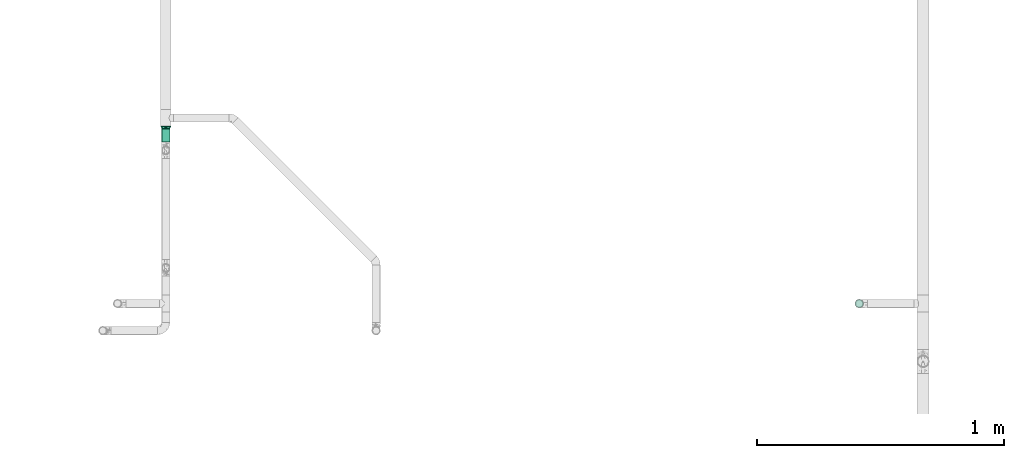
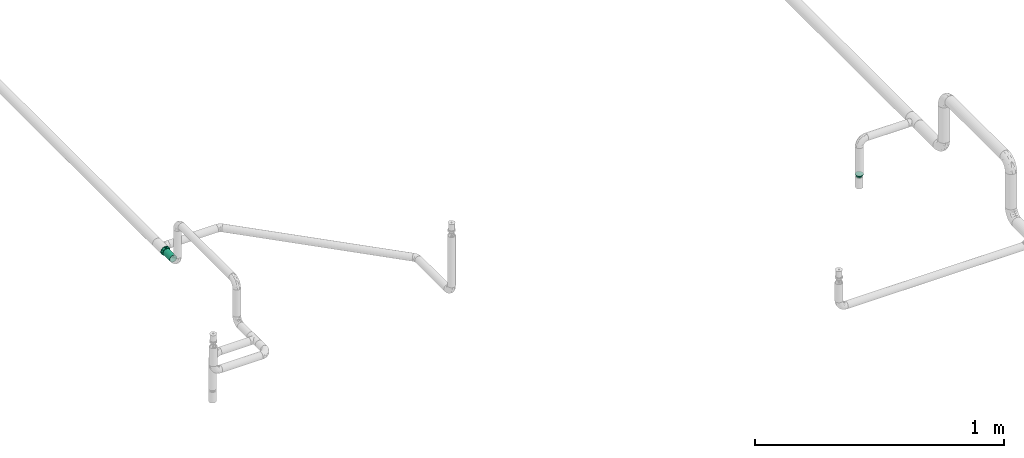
# One storey, part 42 of 157: 2 flow fittings, 1 flow segment.
"""IFC2X3 building model written with IfcOpenShell, lengths in millimetres."""

from ifc_helpers import new_model, entity, si_unit, converted_unit, derived_unit, direction, frame, origin_with_axes, origin_2d_with_axis, place, context, subcontext, project, spatial, hollow_circle, extrude, open_shell, surface_model, source, transform, mapped, type_object, element, save


model = new_model("IFC2X3")

# Units and contexts
model_context = context("Model", 3, precision=0.01, world=frame((0.0, 4.29681676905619e-09, 0.0)), true_north=direction((4.01073788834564e-13, 1.0)))
plan_context = context("Plan", 3, precision=0.01, world=frame((0.0, 4.29681676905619e-09, 0.0)), true_north=direction((4.01073788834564e-13, 1.0)))
body_context = subcontext(model_context, "Body", "Model", "MODEL_VIEW")
ifc_project = project(units=[converted_unit("PLANEANGLEUNIT", "DEGREE", entity("IfcPositiveLengthMeasure", 0.0174532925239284), si_unit("PLANEANGLEUNIT", "RADIAN"), dimensions=[0, 0, 0, 0, 0, 0, 0]), si_unit("AREAUNIT", "SQUARE_METRE"), si_unit("LENGTHUNIT", "METRE", prefix="MILLI"), si_unit("MASSUNIT", "GRAM", prefix="KILO"), si_unit("POWERUNIT", "WATT"), si_unit("PRESSUREUNIT", "PASCAL"), si_unit("FORCEUNIT", "NEWTON", prefix="KILO"), si_unit("ELECTRICCURRENTUNIT", "AMPERE"), si_unit("THERMODYNAMICTEMPERATUREUNIT", "DEGREE_CELSIUS"), si_unit("TIMEUNIT", "SECOND"), si_unit("VOLUMEUNIT", "CUBIC_METRE"), derived_unit("LINEARVELOCITYUNIT", [(si_unit("LENGTHUNIT", "METRE"), 1), (si_unit("TIMEUNIT", "SECOND"), -1)]), derived_unit("VOLUMETRICFLOWRATEUNIT", [(si_unit("VOLUMEUNIT", "CUBIC_METRE"), 1), (si_unit("TIMEUNIT", "SECOND"), -1)]), derived_unit("THERMALTRANSMITTANCEUNIT", [(si_unit("POWERUNIT", "WATT"), 1), (si_unit("THERMODYNAMICTEMPERATUREUNIT", "KELVIN"), -1), (si_unit("AREAUNIT", "SQUARE_METRE"), -1)])], contexts=[model_context, plan_context])

# Site, building, storey
site_placement = place(None, frame((0.0, -4.29681676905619e-09, 0.0), z_axis=(0.0, 0.0, 1.0), x_axis=(1.0, 0.0, 0.0)))
site = spatial("IfcSite", under=ifc_project, at=site_placement, CompositionType="ELEMENT")
building_placement = place(site_placement, frame((0.0, 4.29681676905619e-09, 0.0), z_axis=(0.0, 0.0, 1.0), x_axis=(1.0, 0.0, 0.0)))
building = spatial("IfcBuilding", under=site, at=building_placement, Name="mc-building", CompositionType="ELEMENT")
storey_placement = place(building_placement, frame((0.0, 0.0, 204000.0), z_axis=(0.0, 0.0, 1.0), x_axis=(1.0, 0.0, 0.0)))
storey = spatial("IfcBuildingStorey", under=building, at=storey_placement, Name="Nivå D", CompositionType="ELEMENT", Elevation=204000.0)

# Flow fittings
pipe_fitting_type = type_object("IfcPipeFittingType", Name="magi_pipe_fe_reducer_centric_short_NOR", PredefinedType="TRANSITION")
shared_shape_1 = source(origin_with_axes(), body_context, "Body", "SurfaceModel", [
    surface_model("IfcShellBasedSurfaceModel", [(-2.0, -10.6, -18.35974), (-2.0, 0.0, -21.2), (-2.0, -5.48696, -20.47763), (-2.0, 5.48696, -20.47763), (-2.0, 10.6, -18.35974), (8.6, -11.9501, -11.9501), (8.6, -11.9501, 11.9501), (8.6, -16.9, 0.0), (8.6, 11.9501, -11.9501), (8.6, 16.9, 0.0), (8.6, 0.0, -16.9), (0.0, 17.15116, 12.46105), (0.0, 6.55116, -20.1624), (0.0, -21.2, 0.0), (0.0, -6.55116, -20.1624), (0.0, -17.15116, -12.46105), (8.6, 2.98753, -15.66253), (0.0, 0.0, -20.1624), (0.0, -11.85116, -16.31172), (8.6, -2.98753, -15.66253), (8.6, 8.96258, -13.18758), (8.6, 5.97505, -14.42505), (0.0, 11.85116, -16.31172), (8.6, -5.97505, -14.42505), (8.6, -13.18758, -8.96258), (8.6, -8.96258, -13.18758), (0.0, -6.55116, 20.1624), (8.6, -2.98753, 15.66253), (0.0, 0.0, 20.1624), (8.6, 11.9501, 11.9501), (0.0, 11.85116, 16.31172), (8.6, 2.98753, 15.66253), (0.0, 6.55116, 20.1624), (8.6, -8.96258, 13.18758), (8.6, -5.97505, 14.42505), (0.0, -11.85116, 16.31172), (8.6, 5.97505, 14.42505), (8.6, 13.18758, 8.96258), (8.6, 8.96258, 13.18758), (10.6, 4.37404, -16.32415), (10.6, 8.45, -14.63583), (10.6, 11.9501, -11.9501), (10.6, -8.45, -14.63583), (10.6, 16.32415, -4.37404), (10.6, 16.32415, 4.37404), (10.6, 14.63583, -8.45), (10.6, 0.0, -16.9), (10.6, -4.37404, -16.32415), (10.6, -11.9501, -11.9501), (10.6, -16.32415, -4.37404), (10.6, -14.63583, -8.45), (10.6, -16.32415, 4.37404), (10.6, 16.9, 0.0), (10.6, 14.63583, 8.45), (10.6, 11.9501, 11.9501), (10.6, 4.37404, 16.32415), (10.6, 8.45, 14.63583), (10.6, 0.0, 16.9), (10.6, -14.63583, 8.45), (10.6, -16.9, 0.0), (10.6, -8.45, 14.63583), (10.6, -11.9501, 11.9501), (10.6, -4.37404, 16.32415), (8.6, 4.37404, 16.32415), (8.6, -14.63583, 8.45), (8.6, 0.0, 16.9), (8.6, 16.32415, 4.37404), (8.6, 8.45, 14.63583), (8.6, 14.63583, 8.45), (8.6, -8.45, 14.63583), (8.6, -4.37404, 16.32415), (8.6, -16.32415, 4.37404), (8.6, -16.32415, -4.37404), (8.6, -8.45, -14.63583), (8.6, 16.32415, -4.37404), (8.6, 14.63583, -8.45), (8.6, 8.45, -14.63583), (8.6, 4.37404, -16.32415), (8.6, -14.63583, -8.45), (8.6, -4.37404, -16.32415), (-2.0, 0.0, 21.2), (-2.0, 5.48696, 20.47763), (-2.0, 10.6, 18.35974), (-2.0, 14.99066, 14.99066), (-2.0, 18.35974, 10.6), (-2.0, 20.47763, 5.48696), (-2.0, -21.2, 0.0), (-2.0, -14.99066, -14.99066), (-2.0, -5.48696, 20.47763), (-2.0, -14.99066, 14.99066), (-2.0, -10.6, 18.35974), (-2.0, -18.35974, 10.6), (-2.0, -20.47763, 5.48696), (-2.0, 20.47763, -5.48696), (-2.0, 14.99066, -14.99066), (-2.0, 18.35974, -10.6), (-2.0, -18.35974, -10.6), (-2.0, -20.47763, -5.48696), (-2.0, 21.2, 0.0), (0.0, 10.6, -18.35974), (0.0, 0.0, -21.2), (0.0, 5.48696, -20.47763), (0.0, 20.47763, -5.48696), (0.0, 14.99066, -14.99066), (0.0, -14.99066, -14.99066), (0.0, 18.35974, -10.6), (0.0, -10.6, -18.35974), (0.0, -5.48696, -20.47763), (0.0, -18.35974, -10.6), (0.0, -20.47763, -5.48696), (0.0, -18.35974, 10.6), (0.0, 21.2, 0.0), (0.0, 20.47763, 5.48696), (0.0, 18.35974, 10.6), (0.0, 14.99066, 14.99066), (0.0, 0.0, 21.2), (0.0, 10.6, 18.35974), (0.0, 5.48696, 20.47763), (0.0, -14.99066, 14.99066), (0.0, -20.47763, 5.48696), (0.0, -5.48696, 20.47763), (0.0, -10.6, 18.35974), (0.0, -17.15116, 12.46105), (0.0, 17.15116, -12.46105), (0.0, 14.50116, -14.38638), (8.6, -14.42505, -5.97505), (0.0, -19.17558, -6.23052), (0.0, -18.16337, -9.34579), (8.6, 14.42505, -5.97505), (0.0, 19.17558, -6.23052), (8.6, 13.18758, -8.96258), (8.6, 15.66253, -2.98753), (8.6, -15.66253, -2.98753), (0.0, -14.50116, 14.38638), (8.6, 14.42505, 5.97505), (0.0, 19.17558, 6.23052), (0.0, 18.16337, 9.34579), (8.6, -14.42505, 5.97505), (0.0, -19.17558, 6.23052), (8.6, -13.18758, 8.96258), (8.6, -15.66253, 2.98753), (8.6, 15.66253, 2.98753)], [open_shell([[[0, 1, 2]], [[3, 1, 4]], [[5, 6, 7]], [[8, 9, 10]], [[11, 12, 13]], [[13, 12, 14]], [[13, 14, 15]], [[12, 16, 17]], [[5, 15, 18]], [[17, 19, 14]], [[20, 21, 22]], [[19, 23, 14]], [[12, 21, 16]], [[15, 5, 24]], [[25, 5, 18]], [[22, 8, 20]], [[26, 27, 28]], [[29, 11, 30]], [[28, 31, 32]], [[33, 34, 35]], [[31, 36, 32]], [[26, 34, 27]], [[11, 29, 37]], [[38, 29, 30]], [[35, 6, 33]], [[39, 40, 41]], [[42, 39, 41]], [[41, 43, 44]], [[43, 41, 45]], [[41, 44, 42]], [[46, 42, 47]], [[46, 39, 42]], [[48, 49, 50]], [[49, 48, 42]], [[42, 51, 49]], [[44, 43, 52]], [[44, 53, 54]], [[44, 54, 55]], [[55, 51, 42]], [[55, 54, 56]], [[51, 55, 57]], [[57, 58, 51]], [[59, 49, 51]], [[58, 60, 61]], [[58, 57, 60]], [[60, 57, 62]], [[42, 44, 55]], [[63, 64, 65]], [[66, 63, 67]], [[29, 68, 66]], [[29, 66, 67]], [[64, 63, 66]], [[69, 64, 6]], [[69, 70, 65]], [[65, 64, 69]], [[71, 64, 66]], [[71, 72, 7]], [[71, 66, 73]], [[66, 74, 8]], [[8, 74, 75]], [[8, 76, 77]], [[73, 66, 8]], [[77, 10, 8]], [[72, 5, 78]], [[5, 72, 73]], [[73, 10, 79]], [[72, 71, 73]], [[8, 10, 73]], [[74, 66, 9]], [[72, 49, 7]], [[78, 50, 72]], [[42, 5, 73]], [[78, 5, 48]], [[47, 73, 79]], [[72, 50, 49]], [[49, 59, 7]], [[47, 42, 73]], [[48, 5, 42]], [[48, 50, 78]], [[46, 47, 79]], [[79, 10, 46]], [[77, 39, 10]], [[76, 40, 77]], [[45, 8, 75]], [[76, 8, 41]], [[43, 75, 74]], [[76, 41, 40]], [[40, 39, 77]], [[52, 43, 74]], [[45, 75, 43]], [[45, 41, 8]], [[9, 52, 74]], [[10, 39, 46]], [[66, 44, 9]], [[68, 53, 66]], [[56, 29, 67]], [[68, 29, 54]], [[55, 67, 63]], [[66, 53, 44]], [[44, 52, 9]], [[55, 56, 67]], [[54, 29, 56]], [[54, 53, 68]], [[57, 55, 63]], [[63, 65, 57]], [[70, 62, 65]], [[69, 60, 70]], [[58, 6, 64]], [[69, 6, 61]], [[51, 64, 71]], [[69, 61, 60]], [[60, 62, 70]], [[59, 51, 71]], [[58, 64, 51]], [[58, 61, 6]], [[7, 59, 71]], [[65, 62, 57]], [[80, 81, 82]], [[80, 82, 83]], [[83, 84, 85]], [[83, 85, 80]], [[86, 80, 87]], [[88, 89, 90]], [[88, 80, 89]], [[91, 86, 92]], [[89, 80, 91]], [[80, 86, 91]], [[80, 85, 87]], [[85, 93, 4]], [[94, 93, 95]], [[87, 85, 4]], [[4, 93, 94]], [[86, 96, 97]], [[87, 96, 86]], [[0, 87, 4]], [[1, 0, 4]], [[93, 85, 98]], [[99, 100, 101]], [[102, 99, 103]], [[13, 104, 99]], [[102, 103, 105]], [[102, 13, 99]], [[100, 106, 107]], [[100, 99, 106]], [[108, 13, 109]], [[106, 99, 104]], [[108, 104, 13]], [[110, 102, 111]], [[112, 113, 114]], [[112, 114, 115]], [[116, 117, 115]], [[116, 115, 114]], [[112, 115, 118]], [[13, 110, 119]], [[102, 110, 13]], [[118, 120, 121]], [[110, 112, 118]], [[115, 120, 118]], [[110, 111, 112]], [[97, 109, 86]], [[96, 108, 97]], [[106, 87, 0]], [[96, 87, 104]], [[107, 0, 2]], [[97, 108, 109]], [[109, 13, 86]], [[107, 106, 0]], [[104, 87, 106]], [[104, 108, 96]], [[100, 107, 2]], [[2, 1, 100]], [[3, 101, 1]], [[4, 99, 3]], [[105, 94, 95]], [[4, 94, 103]], [[102, 95, 93]], [[4, 103, 99]], [[99, 101, 3]], [[111, 102, 93]], [[105, 95, 102]], [[105, 103, 94]], [[98, 111, 93]], [[1, 101, 100]], [[85, 112, 98]], [[84, 113, 85]], [[116, 83, 82]], [[84, 83, 114]], [[117, 82, 81]], [[85, 113, 112]], [[112, 111, 98]], [[117, 116, 82]], [[114, 83, 116]], [[114, 113, 84]], [[115, 117, 81]], [[81, 80, 115]], [[88, 120, 80]], [[90, 121, 88]], [[110, 89, 91]], [[90, 89, 118]], [[119, 91, 92]], [[90, 118, 121]], [[121, 120, 88]], [[13, 119, 92]], [[110, 91, 119]], [[110, 118, 89]], [[86, 13, 92]], [[80, 120, 115]], [[65, 6, 29]], [[9, 29, 6]], [[6, 10, 9]], [[10, 6, 5]], [[32, 11, 122]], [[32, 122, 26]], [[122, 11, 13]], [[12, 11, 123]], [[123, 11, 111]], [[8, 22, 124]], [[125, 126, 127]], [[22, 21, 12]], [[8, 124, 123]], [[128, 123, 129]], [[17, 16, 10]], [[123, 128, 130]], [[111, 131, 129]], [[13, 132, 7]], [[18, 23, 25]], [[13, 126, 132]], [[19, 17, 10]], [[131, 111, 9]], [[125, 132, 126]], [[15, 24, 127]], [[24, 125, 127]], [[8, 123, 130]], [[23, 18, 14]], [[131, 128, 129]], [[6, 35, 133]], [[134, 135, 136]], [[35, 34, 26]], [[6, 133, 122]], [[137, 122, 138]], [[28, 27, 65]], [[122, 137, 139]], [[13, 140, 138]], [[111, 141, 9]], [[30, 36, 38]], [[111, 135, 141]], [[31, 28, 65]], [[140, 13, 7]], [[134, 141, 135]], [[11, 37, 136]], [[37, 134, 136]], [[6, 122, 139]], [[36, 30, 32]], [[140, 137, 138]]])]),
])
flow_fitting_1_placement = place(storey_placement, frame((524695.35, 408916.8375, 2880.0), z_axis=(0.0, 0.0, 1.0), x_axis=(0.0, -1.0, 0.0)))
element("IfcFlowFitting", 1, at=flow_fitting_1_placement, inside=storey, type_object=pipe_fitting_type, Name="magi_pipe_fe_reducer_centric_short_NOR", context=body_context, shape_type="MappedRepresentation", body=[
    mapped(shared_shape_1, transform((0.0, 0.0, 0.0), scale=1.0)),
])
shared_shape_2 = source(origin_with_axes(), body_context, "Body", "SurfaceModel", [
    surface_model("IfcShellBasedSurfaceModel", [(-2.0, -7.56604, -7.56604), (-2.0, -10.33541, -2.76936), (-2.0, -5.35, -9.26647), (-2.0, 5.35, -9.26647), (-2.0, 10.33541, -2.76936), (-2.0, 7.56604, -7.56604), (12.4, 11.9501, 11.9501), (12.4, 0.0, 16.9), (12.4, 11.9501, -11.9501), (12.4, 16.9, 0.0), (0.0, -10.7, 0.0), (0.0, -5.35, 9.26647), (0.0, -5.35, -9.26647), (0.0, 10.7, 0.0), (12.4, 15.66253, -2.98753), (12.4, 8.96258, -13.18758), (0.0, 6.6875, -6.94985), (12.4, -15.66253, -2.98753), (12.4, -16.9, 0.0), (12.4, 5.97505, -14.42505), (0.0, 5.35, -9.26647), (12.4, 14.42505, -5.97505), (0.0, 8.025, -4.63324), (0.0, 9.3625, -2.31662), (0.0, -9.3625, -2.31662), (0.0, -8.025, -4.63324), (12.4, -14.42505, -5.97505), (12.4, 13.18758, -8.96258), (12.4, -13.18758, -8.96258), (12.4, -11.9501, -11.9501), (0.0, -6.6875, -6.94985), (12.4, -8.96258, -13.18758), (12.4, -5.97505, -14.42505), (12.4, -15.66253, 2.98753), (12.4, -8.96258, 13.18758), (0.0, -6.6875, 6.94985), (12.4, -11.9501, 11.9501), (12.4, 15.66253, 2.98753), (12.4, -5.97505, 14.42505), (12.4, -14.42505, 5.97505), (0.0, -8.025, 4.63324), (0.0, -9.3625, 2.31662), (0.0, 9.3625, 2.31662), (0.0, 8.025, 4.63324), (12.4, 14.42505, 5.97505), (12.4, -13.18758, 8.96258), (12.4, 13.18758, 8.96258), (0.0, 6.6875, 6.94985), (12.4, 8.96258, 13.18758), (0.0, 5.35, 9.26647), (12.4, 5.97505, 14.42505), (14.4, 4.37404, -16.32415), (14.4, 8.45, -14.63583), (14.4, 11.9501, -11.9501), (14.4, -8.45, -14.63583), (14.4, 16.32415, -4.37404), (14.4, 16.32415, 4.37404), (14.4, 14.63583, -8.45), (14.4, 0.0, -16.9), (14.4, -4.37404, -16.32415), (14.4, -11.9501, -11.9501), (14.4, -16.32415, -4.37404), (14.4, -14.63583, -8.45), (14.4, -16.32415, 4.37404), (14.4, 16.9, 0.0), (14.4, 14.63583, 8.45), (14.4, 11.9501, 11.9501), (14.4, 4.37404, 16.32415), (14.4, 8.45, 14.63583), (14.4, 0.0, 16.9), (14.4, -14.63583, 8.45), (14.4, -16.9, 0.0), (14.4, -8.45, 14.63583), (14.4, -11.9501, 11.9501), (14.4, -4.37404, 16.32415), (12.4, 4.37404, 16.32415), (12.4, -14.63583, 8.45), (12.4, 16.32415, 4.37404), (12.4, 8.45, 14.63583), (12.4, 14.63583, 8.45), (12.4, -8.45, 14.63583), (12.4, -4.37404, 16.32415), (12.4, -16.32415, 4.37404), (12.4, -16.32415, -4.37404), (12.4, -8.45, -14.63583), (12.4, 16.32415, -4.37404), (12.4, 14.63583, -8.45), (12.4, 8.45, -14.63583), (12.4, 4.37404, -16.32415), (12.4, 0.0, -16.9), (12.4, -14.63583, -8.45), (12.4, -4.37404, -16.32415), (-2.0, 2.76936, 10.33541), (-2.0, 0.0, 10.7), (-2.0, 5.35, 9.26647), (-2.0, 7.56604, 7.56604), (-2.0, 9.26647, 5.35), (-2.0, 10.33541, 2.76936), (-2.0, -10.33541, 2.76936), (-2.0, -2.76936, 10.33541), (-2.0, -7.56604, 7.56604), (-2.0, -5.35, 9.26647), (-2.0, -9.26647, 5.35), (-2.0, -10.7, 0.0), (-2.0, 9.26647, -5.35), (-2.0, 2.76936, -10.33541), (-2.0, -9.26647, -5.35), (-2.0, 0.0, -10.7), (-2.0, -2.76936, -10.33541), (-2.0, 10.7, 0.0), (0.0, 0.0, -10.7), (0.0, 2.76936, -10.33541), (0.0, 10.33541, -2.76936), (0.0, 7.56604, -7.56604), (0.0, -10.33541, -2.76936), (0.0, 9.26647, -5.35), (0.0, 0.0, 10.7), (0.0, -2.76936, -10.33541), (0.0, -7.56604, -7.56604), (0.0, -9.26647, -5.35), (0.0, 10.33541, 2.76936), (0.0, 9.26647, 5.35), (0.0, 7.56604, 7.56604), (0.0, 2.76936, 10.33541), (0.0, -7.56604, 7.56604), (0.0, -10.33541, 2.76936), (0.0, -9.26647, 5.35), (0.0, -2.76936, 10.33541), (0.0, 2.675, -9.26647), (0.0, -2.675, -9.26647), (12.4, 2.98753, -15.66253), (0.0, 0.0, -9.26647), (12.4, -2.98753, -15.66253), (0.0, -2.675, 9.26647), (0.0, 2.675, 9.26647), (12.4, -2.98753, 15.66253), (0.0, 0.0, 9.26647), (12.4, 2.98753, 15.66253)], [open_shell([[[0, 1, 2]], [[3, 4, 5]], [[6, 7, 8]], [[8, 9, 6]], [[10, 11, 12]], [[13, 9, 14]], [[15, 16, 8]], [[17, 18, 10]], [[15, 19, 20]], [[21, 22, 23]], [[24, 25, 26]], [[22, 21, 27]], [[28, 26, 25]], [[29, 30, 31]], [[12, 32, 31]], [[10, 18, 33]], [[34, 35, 36]], [[37, 9, 13]], [[34, 38, 11]], [[39, 40, 41]], [[42, 43, 44]], [[40, 39, 45]], [[46, 44, 43]], [[6, 47, 48]], [[49, 50, 48]], [[51, 52, 53]], [[54, 51, 53]], [[53, 55, 56]], [[55, 53, 57]], [[53, 56, 54]], [[58, 54, 59]], [[58, 51, 54]], [[60, 61, 62]], [[61, 60, 54]], [[54, 63, 61]], [[56, 55, 64]], [[56, 65, 66]], [[56, 66, 67]], [[67, 63, 54]], [[67, 66, 68]], [[63, 67, 69]], [[69, 70, 63]], [[71, 61, 63]], [[70, 72, 73]], [[70, 69, 72]], [[72, 69, 74]], [[54, 56, 67]], [[75, 76, 7]], [[77, 75, 78]], [[6, 79, 77]], [[6, 77, 78]], [[76, 75, 77]], [[80, 76, 36]], [[80, 81, 7]], [[7, 76, 80]], [[82, 76, 77]], [[82, 83, 18]], [[82, 77, 84]], [[77, 85, 8]], [[8, 85, 86]], [[8, 87, 88]], [[84, 77, 8]], [[88, 89, 8]], [[83, 29, 90]], [[29, 83, 84]], [[84, 89, 91]], [[83, 82, 84]], [[8, 89, 84]], [[85, 77, 9]], [[83, 61, 18]], [[90, 62, 83]], [[54, 29, 84]], [[90, 29, 60]], [[59, 84, 91]], [[83, 62, 61]], [[61, 71, 18]], [[59, 54, 84]], [[60, 29, 54]], [[60, 62, 90]], [[58, 59, 91]], [[91, 89, 58]], [[88, 51, 89]], [[87, 52, 88]], [[57, 8, 86]], [[87, 8, 53]], [[55, 86, 85]], [[87, 53, 52]], [[52, 51, 88]], [[64, 55, 85]], [[57, 86, 55]], [[57, 53, 8]], [[9, 64, 85]], [[89, 51, 58]], [[77, 56, 9]], [[79, 65, 77]], [[68, 6, 78]], [[79, 6, 66]], [[67, 78, 75]], [[77, 65, 56]], [[56, 64, 9]], [[67, 68, 78]], [[66, 6, 68]], [[66, 65, 79]], [[69, 67, 75]], [[75, 7, 69]], [[81, 74, 7]], [[80, 72, 81]], [[70, 36, 76]], [[80, 36, 73]], [[63, 76, 82]], [[80, 73, 72]], [[72, 74, 81]], [[71, 63, 82]], [[70, 76, 63]], [[70, 73, 36]], [[18, 71, 82]], [[7, 74, 69]], [[92, 1, 93]], [[94, 1, 92]], [[95, 96, 97]], [[95, 97, 94]], [[98, 93, 1]], [[99, 100, 101]], [[99, 93, 100]], [[100, 98, 102]], [[93, 98, 100]], [[98, 1, 103]], [[94, 97, 1]], [[1, 97, 4]], [[5, 4, 104]], [[4, 3, 1]], [[105, 1, 3]], [[1, 0, 106]], [[2, 107, 108]], [[2, 1, 105]], [[105, 107, 2]], [[4, 97, 109]], [[20, 110, 111]], [[112, 20, 113]], [[114, 20, 112]], [[112, 113, 115]], [[116, 114, 112]], [[110, 12, 117]], [[110, 20, 12]], [[118, 114, 119]], [[114, 118, 12]], [[20, 114, 12]], [[112, 13, 120]], [[120, 121, 122]], [[120, 122, 123]], [[116, 112, 123]], [[123, 122, 49]], [[116, 124, 114]], [[125, 124, 126]], [[10, 114, 125]], [[124, 127, 11]], [[125, 114, 124]], [[127, 124, 116]], [[123, 112, 120]], [[1, 114, 103]], [[106, 119, 1]], [[12, 0, 2]], [[106, 0, 118]], [[117, 2, 108]], [[1, 119, 114]], [[114, 10, 103]], [[117, 12, 2]], [[118, 0, 12]], [[118, 119, 106]], [[110, 117, 108]], [[108, 107, 110]], [[105, 111, 107]], [[3, 20, 105]], [[115, 5, 104]], [[3, 5, 113]], [[112, 104, 4]], [[3, 113, 20]], [[20, 111, 105]], [[13, 112, 4]], [[115, 104, 112]], [[115, 113, 5]], [[109, 13, 4]], [[107, 111, 110]], [[97, 120, 109]], [[96, 121, 97]], [[49, 95, 94]], [[96, 95, 122]], [[123, 94, 92]], [[97, 121, 120]], [[120, 13, 109]], [[123, 49, 94]], [[122, 95, 49]], [[122, 121, 96]], [[116, 123, 92]], [[92, 93, 116]], [[99, 127, 93]], [[101, 11, 99]], [[126, 100, 102]], [[101, 100, 124]], [[125, 102, 98]], [[101, 124, 11]], [[11, 127, 99]], [[10, 125, 98]], [[126, 102, 125]], [[126, 124, 100]], [[103, 10, 98]], [[93, 127, 116]], [[18, 7, 36]], [[18, 29, 8]], [[89, 8, 29]], [[18, 8, 7]], [[13, 11, 49]], [[13, 20, 12]], [[13, 12, 11]], [[24, 26, 17]], [[10, 24, 17]], [[16, 15, 20]], [[30, 12, 31]], [[23, 14, 21]], [[19, 128, 20]], [[27, 8, 16]], [[32, 12, 129]], [[30, 28, 25]], [[130, 131, 128]], [[129, 132, 32]], [[16, 22, 27]], [[13, 14, 23]], [[128, 19, 130]], [[130, 89, 131]], [[131, 132, 129]], [[89, 132, 131]], [[28, 30, 29]], [[42, 44, 37]], [[13, 42, 37]], [[35, 34, 11]], [[47, 49, 48]], [[41, 33, 39]], [[38, 133, 11]], [[45, 36, 35]], [[50, 49, 134]], [[47, 46, 43]], [[135, 136, 133]], [[134, 137, 50]], [[35, 40, 45]], [[10, 33, 41]], [[133, 38, 135]], [[135, 7, 136]], [[136, 137, 134]], [[7, 137, 136]], [[46, 47, 6]]])]),
])
flow_fitting_2_placement = place(storey_placement, frame((527500.0, 408200.0, 2696.95199999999), z_axis=(0.0, -1.0, 0.0), x_axis=(0.0, 0.0, 1.0)))
element("IfcFlowFitting", 2, at=flow_fitting_2_placement, inside=storey, type_object=pipe_fitting_type, Name="magi_pipe_fe_reducer_centric_short_NOR", context=body_context, shape_type="MappedRepresentation", body=[
    mapped(shared_shape_2, transform((0.0, 0.0, 0.0), scale=1.0)),
])

# Flow segment
pipe_segment_type = type_object("IfcPipeSegmentType", Name="Stålrør normaltykke", PredefinedType="RIGIDSEGMENT")
shared_shape_3 = source(origin_with_axes(), body_context, "Body", "SweptSolid", [
    extrude(hollow_circle(Radius=16.9, WallThickness=2.0, at=origin_2d_with_axis()), frame((0.0, 0.0, 0.0), z_axis=(1.0, 0.0, 0.0), x_axis=(0.0, 1.0, 0.0)), (0.0, 0.0, 1.0), 54.7),
])
flow_segment_placement = place(storey_placement, frame((524695.35, 408908.2375, 2880.0), z_axis=(0.0, 0.0, 1.0), x_axis=(0.0, -1.0, 0.0)))
element("IfcFlowSegment", 3, at=flow_segment_placement, inside=storey, type_object=pipe_segment_type, Name="Stålrør normaltykke", context=body_context, shape_type="MappedRepresentation", body=[
    mapped(shared_shape_3, transform((0.0, 0.0, 0.0), scale=1.0)),
])

save(model, "model.ifc")
